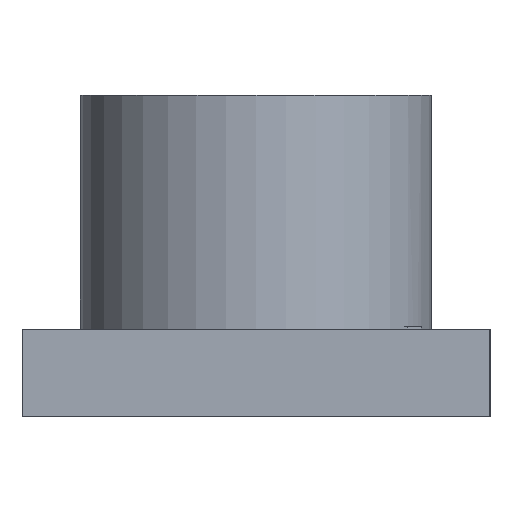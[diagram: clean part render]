
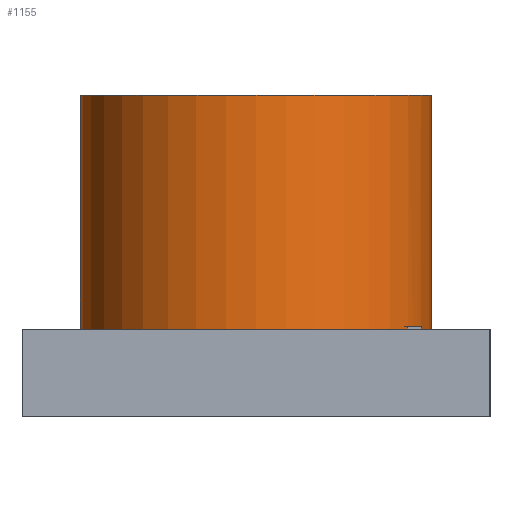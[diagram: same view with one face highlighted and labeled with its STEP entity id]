
A CAD part, left-side view. The second image highlights one B-rep face of the part: STEP entity #1155.
In plain terms, the highlighted cylindrical face has radius 6 mm (diameter 12 mm), a full revolution.
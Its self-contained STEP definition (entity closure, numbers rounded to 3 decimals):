
#126 = PLANE('',#127);
#127 = AXIS2_PLACEMENT_3D('',#128,#129,#130);
#128 = CARTESIAN_POINT('',(0.,0.,3.));
#129 = DIRECTION('',(0.,0.,1.));
#130 = DIRECTION('',(1.,0.,0.));
#265 = EDGE_CURVE('',#266,#268,#270,.T.);
#266 = VERTEX_POINT('',#267);
#267 = CARTESIAN_POINT('',(14.,8.,3.));
#268 = VERTEX_POINT('',#269);
#269 = CARTESIAN_POINT('',(5.,2.804,3.));
#270 = SURFACE_CURVE('',#271,(#276,#283),.PCURVE_S1.);
#271 = CIRCLE('',#272,6.);
#272 = AXIS2_PLACEMENT_3D('',#273,#274,#275);
#273 = CARTESIAN_POINT('',(8.,8.,3.));
#274 = DIRECTION('',(0.,0.,1.));
#275 = DIRECTION('',(1.,0.,0.));
#276 = PCURVE('',#126,#277);
#277 = DEFINITIONAL_REPRESENTATION('',(#278),#282);
#278 = CIRCLE('',#279,6.);
#279 = AXIS2_PLACEMENT_2D('',#280,#281);
#280 = CARTESIAN_POINT('',(8.,8.));
#281 = DIRECTION('',(1.,0.));
#282 = ( GEOMETRIC_REPRESENTATION_CONTEXT(2) 
PARAMETRIC_REPRESENTATION_CONTEXT() REPRESENTATION_CONTEXT('2D SPACE',''
  ) );
#283 = PCURVE('',#284,#289);
#284 = CYLINDRICAL_SURFACE('',#285,6.);
#285 = AXIS2_PLACEMENT_3D('',#286,#287,#288);
#286 = CARTESIAN_POINT('',(8.,8.,3.));
#287 = DIRECTION('',(-0.,-0.,-1.));
#288 = DIRECTION('',(1.,0.,0.));
#289 = DEFINITIONAL_REPRESENTATION('',(#290),#294);
#290 = LINE('',#291,#292);
#291 = CARTESIAN_POINT('',(-0.,0.));
#292 = VECTOR('',#293,1.);
#293 = DIRECTION('',(-1.,0.));
#294 = ( GEOMETRIC_REPRESENTATION_CONTEXT(2) 
PARAMETRIC_REPRESENTATION_CONTEXT() REPRESENTATION_CONTEXT('2D SPACE',''
  ) );
#296 = EDGE_CURVE('',#297,#266,#299,.T.);
#297 = VERTEX_POINT('',#298);
#298 = CARTESIAN_POINT('',(6.,2.343,3.));
#299 = SURFACE_CURVE('',#300,(#305,#312),.PCURVE_S1.);
#300 = CIRCLE('',#301,6.);
#301 = AXIS2_PLACEMENT_3D('',#302,#303,#304);
#302 = CARTESIAN_POINT('',(8.,8.,3.));
#303 = DIRECTION('',(0.,0.,1.));
#304 = DIRECTION('',(1.,0.,0.));
#305 = PCURVE('',#126,#306);
#306 = DEFINITIONAL_REPRESENTATION('',(#307),#311);
#307 = CIRCLE('',#308,6.);
#308 = AXIS2_PLACEMENT_2D('',#309,#310);
#309 = CARTESIAN_POINT('',(8.,8.));
#310 = DIRECTION('',(1.,0.));
#311 = ( GEOMETRIC_REPRESENTATION_CONTEXT(2) 
PARAMETRIC_REPRESENTATION_CONTEXT() REPRESENTATION_CONTEXT('2D SPACE',''
  ) );
#312 = PCURVE('',#284,#313);
#313 = DEFINITIONAL_REPRESENTATION('',(#314),#318);
#314 = LINE('',#315,#316);
#315 = CARTESIAN_POINT('',(-0.,0.));
#316 = VECTOR('',#317,1.);
#317 = DIRECTION('',(-1.,0.));
#318 = ( GEOMETRIC_REPRESENTATION_CONTEXT(2) 
PARAMETRIC_REPRESENTATION_CONTEXT() REPRESENTATION_CONTEXT('2D SPACE',''
  ) );
#335 = PLANE('',#336);
#336 = AXIS2_PLACEMENT_3D('',#337,#338,#339);
#337 = CARTESIAN_POINT('',(6.,1.2,1.8));
#338 = DIRECTION('',(1.,0.,0.));
#339 = DIRECTION('',(0.,0.,1.));
#385 = PLANE('',#386);
#386 = AXIS2_PLACEMENT_3D('',#387,#388,#389);
#387 = CARTESIAN_POINT('',(5.,1.2,1.8));
#388 = DIRECTION('',(1.,0.,0.));
#389 = DIRECTION('',(0.,0.,1.));
#1155 = ADVANCED_FACE('',(#1156),#284,.T.);
#1156 = FACE_BOUND('',#1157,.F.);
#1157 = EDGE_LOOP('',(#1158,#1159,#1182,#1209,#1210,#1211,#1232,#1265));
#1158 = ORIENTED_EDGE('',*,*,#265,.F.);
#1159 = ORIENTED_EDGE('',*,*,#1160,.T.);
#1160 = EDGE_CURVE('',#266,#1161,#1163,.T.);
#1161 = VERTEX_POINT('',#1162);
#1162 = CARTESIAN_POINT('',(14.,8.,11.));
#1163 = SEAM_CURVE('',#1164,(#1168,#1175),.PCURVE_S1.);
#1164 = LINE('',#1165,#1166);
#1165 = CARTESIAN_POINT('',(14.,8.,3.));
#1166 = VECTOR('',#1167,1.);
#1167 = DIRECTION('',(0.,0.,1.));
#1168 = PCURVE('',#284,#1169);
#1169 = DEFINITIONAL_REPRESENTATION('',(#1170),#1174);
#1170 = LINE('',#1171,#1172);
#1171 = CARTESIAN_POINT('',(-6.283,0.));
#1172 = VECTOR('',#1173,1.);
#1173 = DIRECTION('',(-0.,-1.));
#1174 = ( GEOMETRIC_REPRESENTATION_CONTEXT(2) 
PARAMETRIC_REPRESENTATION_CONTEXT() REPRESENTATION_CONTEXT('2D SPACE',''
  ) );
#1175 = PCURVE('',#284,#1176);
#1176 = DEFINITIONAL_REPRESENTATION('',(#1177),#1181);
#1177 = LINE('',#1178,#1179);
#1178 = CARTESIAN_POINT('',(-0.,0.));
#1179 = VECTOR('',#1180,1.);
#1180 = DIRECTION('',(-0.,-1.));
#1181 = ( GEOMETRIC_REPRESENTATION_CONTEXT(2) 
PARAMETRIC_REPRESENTATION_CONTEXT() REPRESENTATION_CONTEXT('2D SPACE',''
  ) );
#1182 = ORIENTED_EDGE('',*,*,#1183,.T.);
#1183 = EDGE_CURVE('',#1161,#1161,#1184,.T.);
#1184 = SURFACE_CURVE('',#1185,(#1190,#1197),.PCURVE_S1.);
#1185 = CIRCLE('',#1186,6.);
#1186 = AXIS2_PLACEMENT_3D('',#1187,#1188,#1189);
#1187 = CARTESIAN_POINT('',(8.,8.,11.));
#1188 = DIRECTION('',(0.,0.,1.));
#1189 = DIRECTION('',(1.,0.,0.));
#1190 = PCURVE('',#284,#1191);
#1191 = DEFINITIONAL_REPRESENTATION('',(#1192),#1196);
#1192 = LINE('',#1193,#1194);
#1193 = CARTESIAN_POINT('',(-0.,-8.));
#1194 = VECTOR('',#1195,1.);
#1195 = DIRECTION('',(-1.,0.));
#1196 = ( GEOMETRIC_REPRESENTATION_CONTEXT(2) 
PARAMETRIC_REPRESENTATION_CONTEXT() REPRESENTATION_CONTEXT('2D SPACE',''
  ) );
#1197 = PCURVE('',#1198,#1203);
#1198 = PLANE('',#1199);
#1199 = AXIS2_PLACEMENT_3D('',#1200,#1201,#1202);
#1200 = CARTESIAN_POINT('',(8.,8.,11.));
#1201 = DIRECTION('',(0.,0.,1.));
#1202 = DIRECTION('',(1.,0.,-0.));
#1203 = DEFINITIONAL_REPRESENTATION('',(#1204),#1208);
#1204 = CIRCLE('',#1205,6.);
#1205 = AXIS2_PLACEMENT_2D('',#1206,#1207);
#1206 = CARTESIAN_POINT('',(0.,0.));
#1207 = DIRECTION('',(1.,0.));
#1208 = ( GEOMETRIC_REPRESENTATION_CONTEXT(2) 
PARAMETRIC_REPRESENTATION_CONTEXT() REPRESENTATION_CONTEXT('2D SPACE',''
  ) );
#1209 = ORIENTED_EDGE('',*,*,#1160,.F.);
#1210 = ORIENTED_EDGE('',*,*,#296,.F.);
#1211 = ORIENTED_EDGE('',*,*,#1212,.F.);
#1212 = EDGE_CURVE('',#1213,#297,#1215,.T.);
#1213 = VERTEX_POINT('',#1214);
#1214 = CARTESIAN_POINT('',(6.,2.343,3.1));
#1215 = SURFACE_CURVE('',#1216,(#1220,#1226),.PCURVE_S1.);
#1216 = LINE('',#1217,#1218);
#1217 = CARTESIAN_POINT('',(6.,2.343,3.));
#1218 = VECTOR('',#1219,1.);
#1219 = DIRECTION('',(-0.,-0.,-1.));
#1220 = PCURVE('',#284,#1221);
#1221 = DEFINITIONAL_REPRESENTATION('',(#1222),#1225);
#1222 = B_SPLINE_CURVE_WITH_KNOTS('',1,(#1223,#1224),.UNSPECIFIED.,.F.,
  .F.,(2,2),(-0.23,0.),.PIECEWISE_BEZIER_KNOTS.);
#1223 = CARTESIAN_POINT('',(-4.373,-0.23));
#1224 = CARTESIAN_POINT('',(-4.373,0.));
#1225 = ( GEOMETRIC_REPRESENTATION_CONTEXT(2) 
PARAMETRIC_REPRESENTATION_CONTEXT() REPRESENTATION_CONTEXT('2D SPACE',''
  ) );
#1226 = PCURVE('',#335,#1227);
#1227 = DEFINITIONAL_REPRESENTATION('',(#1228),#1231);
#1228 = B_SPLINE_CURVE_WITH_KNOTS('',1,(#1229,#1230),.UNSPECIFIED.,.F.,
  .F.,(2,2),(-0.23,0.),.PIECEWISE_BEZIER_KNOTS.);
#1229 = CARTESIAN_POINT('',(1.43,-1.143));
#1230 = CARTESIAN_POINT('',(1.2,-1.143));
#1231 = ( GEOMETRIC_REPRESENTATION_CONTEXT(2) 
PARAMETRIC_REPRESENTATION_CONTEXT() REPRESENTATION_CONTEXT('2D SPACE',''
  ) );
#1232 = ORIENTED_EDGE('',*,*,#1233,.T.);
#1233 = EDGE_CURVE('',#1213,#1234,#1236,.T.);
#1234 = VERTEX_POINT('',#1235);
#1235 = CARTESIAN_POINT('',(5.,2.804,3.1));
#1236 = SURFACE_CURVE('',#1237,(#1242,#1249),.PCURVE_S1.);
#1237 = CIRCLE('',#1238,6.);
#1238 = AXIS2_PLACEMENT_3D('',#1239,#1240,#1241);
#1239 = CARTESIAN_POINT('',(8.,8.,3.1));
#1240 = DIRECTION('',(0.,0.,-1.));
#1241 = DIRECTION('',(1.,0.,0.));
#1242 = PCURVE('',#284,#1243);
#1243 = DEFINITIONAL_REPRESENTATION('',(#1244),#1248);
#1244 = LINE('',#1245,#1246);
#1245 = CARTESIAN_POINT('',(-6.283,-0.1));
#1246 = VECTOR('',#1247,1.);
#1247 = DIRECTION('',(1.,-0.));
#1248 = ( GEOMETRIC_REPRESENTATION_CONTEXT(2) 
PARAMETRIC_REPRESENTATION_CONTEXT() REPRESENTATION_CONTEXT('2D SPACE',''
  ) );
#1249 = PCURVE('',#1250,#1255);
#1250 = PLANE('',#1251);
#1251 = AXIS2_PLACEMENT_3D('',#1252,#1253,#1254);
#1252 = CARTESIAN_POINT('',(5.,1.2,3.1));
#1253 = DIRECTION('',(0.,0.,1.));
#1254 = DIRECTION('',(1.,0.,0.));
#1255 = DEFINITIONAL_REPRESENTATION('',(#1256),#1264);
#1256 = ( BOUNDED_CURVE() B_SPLINE_CURVE(2,(#1257,#1258,#1259,#1260,
#1261,#1262,#1263),.UNSPECIFIED.,.T.,.F.) B_SPLINE_CURVE_WITH_KNOTS((1,2
    ,2,2,2,1),(-2.094,0.,2.094,4.189,
6.283,8.378),.UNSPECIFIED.) CURVE() 
GEOMETRIC_REPRESENTATION_ITEM() RATIONAL_B_SPLINE_CURVE((1.,0.5,1.,0.5,
1.,0.5,1.)) REPRESENTATION_ITEM('') );
#1257 = CARTESIAN_POINT('',(9.,6.8));
#1258 = CARTESIAN_POINT('',(9.,-3.592));
#1259 = CARTESIAN_POINT('',(0.,1.604));
#1260 = CARTESIAN_POINT('',(-9.,6.8));
#1261 = CARTESIAN_POINT('',(0.,11.996));
#1262 = CARTESIAN_POINT('',(9.,17.192));
#1263 = CARTESIAN_POINT('',(9.,6.8));
#1264 = ( GEOMETRIC_REPRESENTATION_CONTEXT(2) 
PARAMETRIC_REPRESENTATION_CONTEXT() REPRESENTATION_CONTEXT('2D SPACE',''
  ) );
#1265 = ORIENTED_EDGE('',*,*,#1266,.T.);
#1266 = EDGE_CURVE('',#1234,#268,#1267,.T.);
#1267 = SURFACE_CURVE('',#1268,(#1272,#1278),.PCURVE_S1.);
#1268 = LINE('',#1269,#1270);
#1269 = CARTESIAN_POINT('',(5.,2.804,3.));
#1270 = VECTOR('',#1271,1.);
#1271 = DIRECTION('',(-0.,-0.,-1.));
#1272 = PCURVE('',#284,#1273);
#1273 = DEFINITIONAL_REPRESENTATION('',(#1274),#1277);
#1274 = B_SPLINE_CURVE_WITH_KNOTS('',1,(#1275,#1276),.UNSPECIFIED.,.F.,
  .F.,(2,2),(-0.23,0.),.PIECEWISE_BEZIER_KNOTS.);
#1275 = CARTESIAN_POINT('',(-4.189,-0.23));
#1276 = CARTESIAN_POINT('',(-4.189,0.));
#1277 = ( GEOMETRIC_REPRESENTATION_CONTEXT(2) 
PARAMETRIC_REPRESENTATION_CONTEXT() REPRESENTATION_CONTEXT('2D SPACE',''
  ) );
#1278 = PCURVE('',#385,#1279);
#1279 = DEFINITIONAL_REPRESENTATION('',(#1280),#1283);
#1280 = B_SPLINE_CURVE_WITH_KNOTS('',1,(#1281,#1282),.UNSPECIFIED.,.F.,
  .F.,(2,2),(-0.23,0.),.PIECEWISE_BEZIER_KNOTS.);
#1281 = CARTESIAN_POINT('',(1.43,-1.604));
#1282 = CARTESIAN_POINT('',(1.2,-1.604));
#1283 = ( GEOMETRIC_REPRESENTATION_CONTEXT(2) 
PARAMETRIC_REPRESENTATION_CONTEXT() REPRESENTATION_CONTEXT('2D SPACE',''
  ) );
